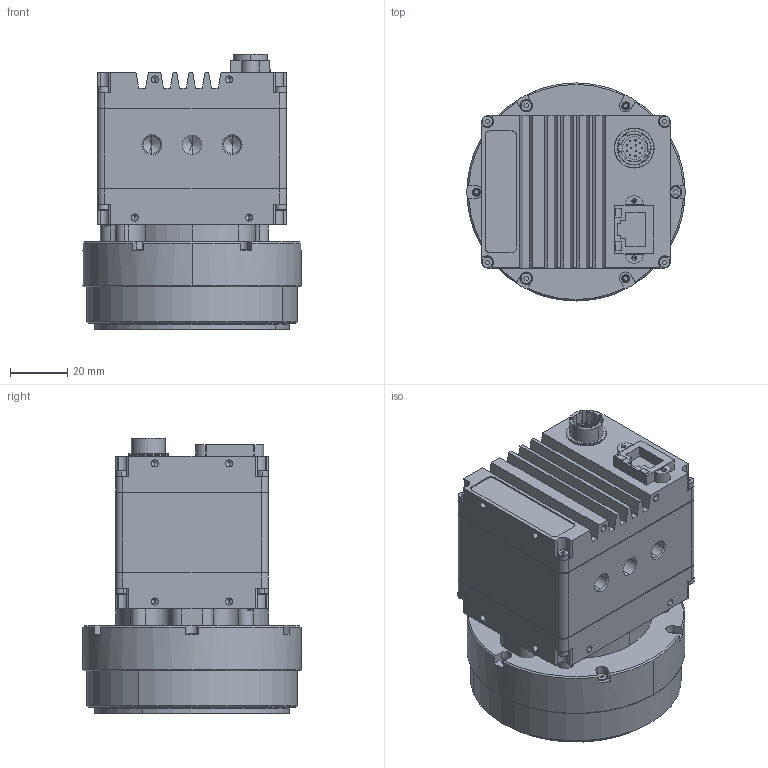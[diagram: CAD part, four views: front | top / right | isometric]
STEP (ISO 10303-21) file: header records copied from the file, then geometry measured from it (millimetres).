
FILE_DESCRIPTION (( 'STEP AP214' ), '1' );
FILE_NAME ('GT4905C PA M58.STEP', '2016-01-23T00:11:33', ( '' ), ( '' ), 'SwSTEP 2.0', 'SolidWorks 2015', '' );
FILE_SCHEMA (( 'AUTOMOTIVE_DESIGN' ));
Length unit declared in the file: millimetre
Products named in the file (7): PA IR CUT FILTER ASSY - defeatured; GTLF BODY ASSY - defeatured_GT4905; GT4905C PA M58; FILTER HOLDER - defeatured; IR CUT FILTER - defeatured; GTLF PA FRONT ASSY - defeatured; GTLF 46.5MM M58 FRONT - defeatured
Assembly tree (7 placements, depth 3):
  GT4905C PA M58
    GTLF BODY ASSY - defeatured_GT4905
    GTLF PA FRONT ASSY - defeatured
    PA IR CUT FILTER ASSY - defeatured
      FILTER HOLDER - defeatured  x2
      IR CUT FILTER - defeatured
    GTLF 46.5MM M58 FRONT - defeatured
Bounding box: 76.2 x 76.2 x 96.35 mm (x, y, z)
Volume: 217773.9 mm3; surface area: 65263.5 mm2
Topology: 6 solids, 14 shells, 1178 faces, 2971 edges, 1837 vertices
Faces by surface type: cylinder 469, plane 420, cone 179, bspline 63, sphere 26, torus 21
Entity records: 55016 total; most frequent: CARTESIAN_POINT 23833, DIRECTION 5608, ORIENTED_EDGE 5312, EDGE_CURVE 2656, AXIS2_PLACEMENT_3D 2115, VERTEX_POINT 1697, LINE 1378, VECTOR 1378
